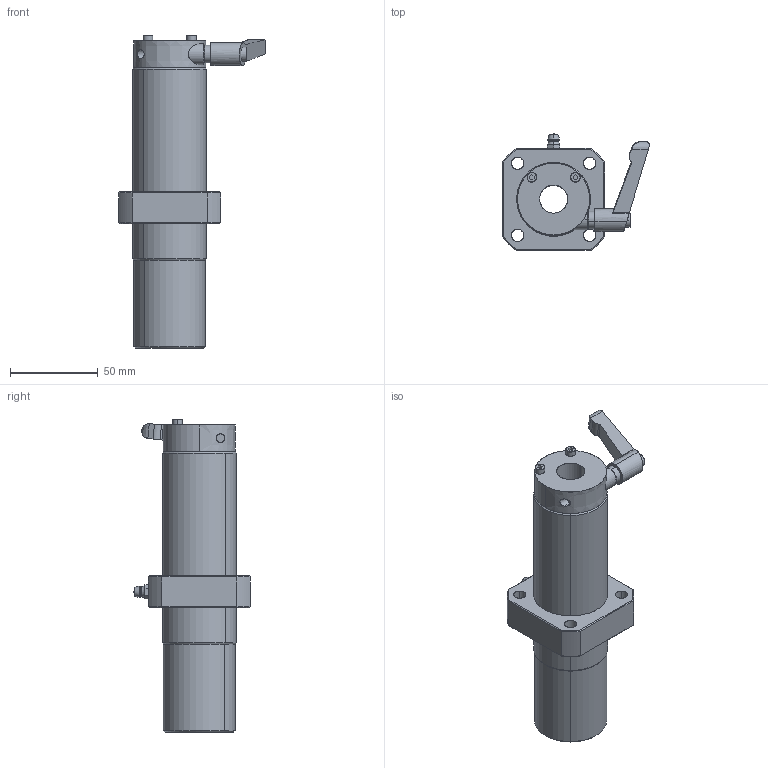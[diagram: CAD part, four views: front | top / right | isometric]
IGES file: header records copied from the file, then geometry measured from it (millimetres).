
Start section: SolidWorks IGES file using analytic representation for surfaces
Global section: file name: C:\Users\yamad\Desktop\IGES\LFWLC16-C.IGS; native system: SolidWorks 2019; preprocessor: SolidWorks 2019; author: yamad; date: 230626.174124; units: millimetre
Bounding box: 83.5 x 66.39 x 178 mm (x, y, z)
Surface area: 50883.1 mm2 (no closed solid volume)
Topology: 0 solids, 0 shells, 262 faces, 5137 edges, 5135 vertices
Faces by surface type: bspline 133, revolution 129
